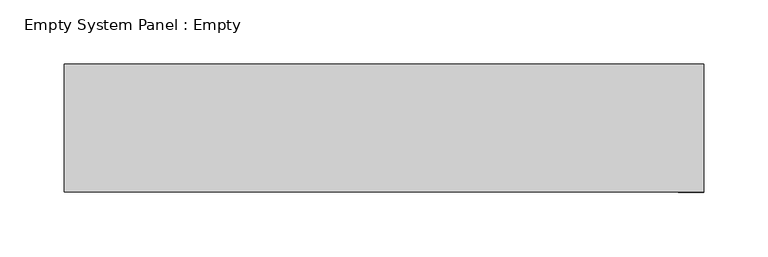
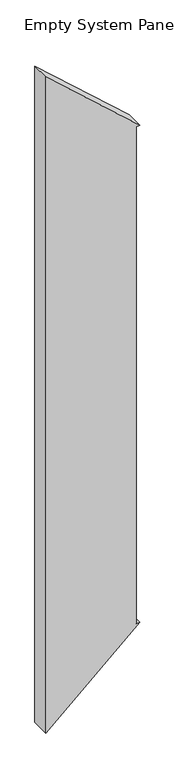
"""IFC4 building model written with IfcOpenShell, lengths in millimetres: plate geometry, Empty System Panel : Empty."""

from ifc_helpers import new_model, si_unit, frame, origin, place, context, project, spatial, polyline, outline, extrude, source, transform, mapped, element, save


def empty_system_panel_empty_f4027d7d(model_context):
    return source(origin(), model_context, "Body", "SweptSolid", [
        extrude(outline(polyline([(0.0, -249.7473037), (446.8059677, 249.7473037), (446.8059677, 229.7473037), (3234.983706, 229.7473037), (3234.983706, 249.7473037), (3681.7896736, -249.7473037), (0.0, -249.7473037)])), frame((0.0, -50.0, 0.0), z_axis=(0.0, 1.0, 0.0), x_axis=(0.0, 0.0, 1.0)), (0.0, 0.0, 1.0), 100.0),
    ])


if __name__ == "__main__":
    model = new_model("IFC4")
    model_context = context("Model", 3, world=origin())
    ifc_project = project(units=[si_unit("LENGTHUNIT", "METRE", prefix="MILLI")], contexts=[model_context])
    site = spatial("IfcSite", under=ifc_project)
    building = spatial("IfcBuilding", under=site)
    placement = place(None, origin())
    empty_system_panel_empty_shape = empty_system_panel_empty_f4027d7d(model_context)
    element("IfcPlate", 1, ObjectType="Empty System Panel : Empty", at=placement, inside=building, context=model_context, shape_type="MappedRepresentation", body=[
        mapped(empty_system_panel_empty_shape, transform((0.0, 0.0, 0.0), x_axis=(1.0, 0.0, 0.0), y_axis=(0.0, 1.0, 0.0), z_axis=(0.0, 0.0, 1.0))),
    ])
    save(model, "model.ifc")
